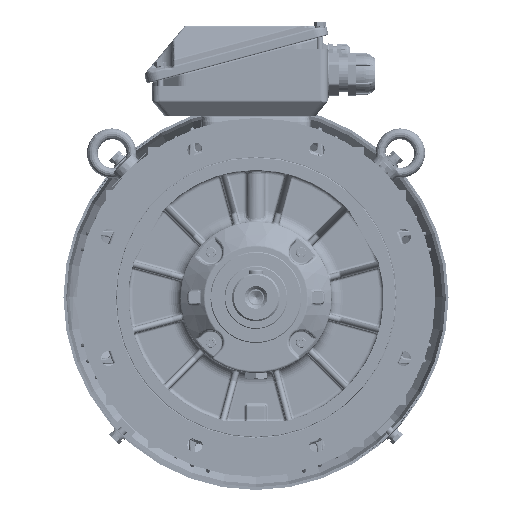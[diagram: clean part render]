
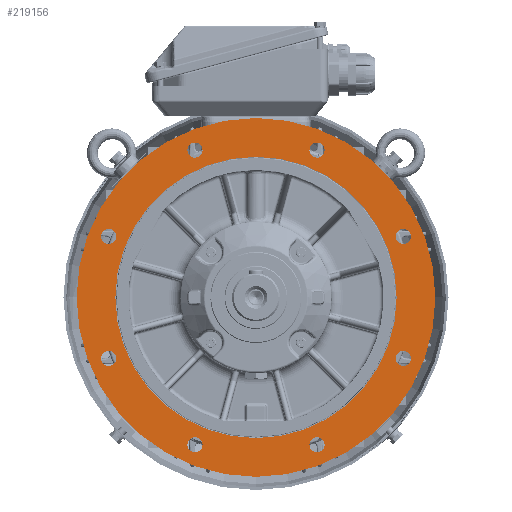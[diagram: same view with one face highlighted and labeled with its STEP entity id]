
A CAD part, front view. The second image highlights one B-rep face of the part: STEP entity #219156.
In plain terms, the highlighted planar face has unit normal (0, -1, 0).
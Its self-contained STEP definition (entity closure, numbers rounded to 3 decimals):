
#33152=PLANE('',#230166);
#39244=CIRCLE('',#229507,224.995);
#39607=CIRCLE('',#230167,9.5);
#39608=CIRCLE('',#230168,9.5);
#39609=CIRCLE('',#230169,9.5);
#39610=CIRCLE('',#230170,9.5);
#39611=CIRCLE('',#230171,9.5);
#39612=CIRCLE('',#230172,9.5);
#39613=CIRCLE('',#230173,9.5);
#39614=CIRCLE('',#230174,9.5);
#39615=CIRCLE('',#230175,176.395);
#52921=ORIENTED_EDGE('',*,*,#94835,.F.);
#52922=ORIENTED_EDGE('',*,*,#94836,.F.);
#52923=ORIENTED_EDGE('',*,*,#94837,.F.);
#52924=ORIENTED_EDGE('',*,*,#94838,.F.);
#52925=ORIENTED_EDGE('',*,*,#94839,.F.);
#52926=ORIENTED_EDGE('',*,*,#94840,.F.);
#52927=ORIENTED_EDGE('',*,*,#94841,.F.);
#52928=ORIENTED_EDGE('',*,*,#94842,.F.);
#52929=ORIENTED_EDGE('',*,*,#94843,.F.);
#52930=ORIENTED_EDGE('',*,*,#94140,.F.);
#94140=EDGE_CURVE('',#115818,#115818,#39244,.T.);
#94835=EDGE_CURVE('',#116113,#116113,#39607,.T.);
#94836=EDGE_CURVE('',#116114,#116114,#39608,.T.);
#94837=EDGE_CURVE('',#116115,#116115,#39609,.T.);
#94838=EDGE_CURVE('',#116116,#116116,#39610,.T.);
#94839=EDGE_CURVE('',#116117,#116117,#39611,.T.);
#94840=EDGE_CURVE('',#116118,#116118,#39612,.T.);
#94841=EDGE_CURVE('',#116119,#116119,#39613,.T.);
#94842=EDGE_CURVE('',#116120,#116120,#39614,.T.);
#94843=EDGE_CURVE('',#116121,#116121,#39615,.T.);
#115818=VERTEX_POINT('',#308311);
#116113=VERTEX_POINT('',#312621);
#116114=VERTEX_POINT('',#312623);
#116115=VERTEX_POINT('',#312625);
#116116=VERTEX_POINT('',#312627);
#116117=VERTEX_POINT('',#312629);
#116118=VERTEX_POINT('',#312631);
#116119=VERTEX_POINT('',#312633);
#116120=VERTEX_POINT('',#312635);
#116121=VERTEX_POINT('',#312637);
#132378=EDGE_LOOP('',(#52921));
#132379=EDGE_LOOP('',(#52922));
#132380=EDGE_LOOP('',(#52923));
#132381=EDGE_LOOP('',(#52924));
#132382=EDGE_LOOP('',(#52925));
#132383=EDGE_LOOP('',(#52926));
#132384=EDGE_LOOP('',(#52927));
#132385=EDGE_LOOP('',(#52928));
#132386=EDGE_LOOP('',(#52929));
#132387=EDGE_LOOP('',(#52930));
#143730=FACE_BOUND('',#132378,.T.);
#143731=FACE_BOUND('',#132379,.T.);
#143732=FACE_BOUND('',#132380,.T.);
#143733=FACE_BOUND('',#132381,.T.);
#143734=FACE_BOUND('',#132382,.T.);
#143735=FACE_BOUND('',#132383,.T.);
#143736=FACE_BOUND('',#132384,.T.);
#143737=FACE_BOUND('',#132385,.T.);
#143738=FACE_BOUND('',#132386,.T.);
#143739=FACE_BOUND('',#132387,.T.);
#219156=ADVANCED_FACE('',(#143730,#143731,#143732,#143733,#143734,#143735,
#143736,#143737,#143738,#143739),#33152,.F.);
#229507=AXIS2_PLACEMENT_3D('',#308310,#248904,#248905);
#230166=AXIS2_PLACEMENT_3D('',#312619,#250406,#250407);
#230167=AXIS2_PLACEMENT_3D('',#312620,#250408,#250409);
#230168=AXIS2_PLACEMENT_3D('',#312622,#250410,#250411);
#230169=AXIS2_PLACEMENT_3D('',#312624,#250412,#250413);
#230170=AXIS2_PLACEMENT_3D('',#312626,#250414,#250415);
#230171=AXIS2_PLACEMENT_3D('',#312628,#250416,#250417);
#230172=AXIS2_PLACEMENT_3D('',#312630,#250418,#250419);
#230173=AXIS2_PLACEMENT_3D('',#312632,#250420,#250421);
#230174=AXIS2_PLACEMENT_3D('',#312634,#250422,#250423);
#230175=AXIS2_PLACEMENT_3D('',#312636,#250424,#250425);
#248904=DIRECTION('',(0.,1.,0.));
#248905=DIRECTION('',(-1.,0.,0.));
#250406=DIRECTION('',(0.,1.,0.));
#250407=DIRECTION('',(-1.,0.,0.));
#250408=DIRECTION('',(0.,-1.,0.));
#250409=DIRECTION('',(1.,0.,0.));
#250410=DIRECTION('',(0.,-1.,0.));
#250411=DIRECTION('',(1.,0.,0.));
#250412=DIRECTION('',(0.,-1.,0.));
#250413=DIRECTION('',(1.,0.,0.));
#250414=DIRECTION('',(0.,-1.,0.));
#250415=DIRECTION('',(1.,0.,0.));
#250416=DIRECTION('',(0.,-1.,0.));
#250417=DIRECTION('',(1.,0.,0.));
#250418=DIRECTION('',(0.,-1.,0.));
#250419=DIRECTION('',(1.,0.,0.));
#250420=DIRECTION('',(0.,-1.,0.));
#250421=DIRECTION('',(1.,0.,0.));
#250422=DIRECTION('',(0.,-1.,0.));
#250423=DIRECTION('',(1.,0.,0.));
#250424=DIRECTION('',(0.,-1.,0.));
#250425=DIRECTION('',(1.,0.,0.));
#308310=CARTESIAN_POINT('',(0.,-84.5,0.));
#308311=CARTESIAN_POINT('',(-224.995,-84.5,0.));
#312619=CARTESIAN_POINT('',(-176.395,-84.5,0.));
#312620=CARTESIAN_POINT('',(184.776,-84.5,-76.537));
#312621=CARTESIAN_POINT('',(194.276,-84.5,-76.537));
#312622=CARTESIAN_POINT('',(76.537,-84.5,-184.776));
#312623=CARTESIAN_POINT('',(86.037,-84.5,-184.776));
#312624=CARTESIAN_POINT('',(-76.537,-84.5,-184.776));
#312625=CARTESIAN_POINT('',(-67.037,-84.5,-184.776));
#312626=CARTESIAN_POINT('',(-184.776,-84.5,-76.537));
#312627=CARTESIAN_POINT('',(-175.276,-84.5,-76.537));
#312628=CARTESIAN_POINT('',(-184.776,-84.5,76.537));
#312629=CARTESIAN_POINT('',(-175.276,-84.5,76.537));
#312630=CARTESIAN_POINT('',(-76.537,-84.5,184.776));
#312631=CARTESIAN_POINT('',(-67.037,-84.5,184.776));
#312632=CARTESIAN_POINT('',(76.537,-84.5,184.776));
#312633=CARTESIAN_POINT('',(86.037,-84.5,184.776));
#312634=CARTESIAN_POINT('',(184.776,-84.5,76.537));
#312635=CARTESIAN_POINT('',(194.276,-84.5,76.537));
#312636=CARTESIAN_POINT('',(0.,-84.5,0.));
#312637=CARTESIAN_POINT('',(176.395,-84.5,0.));
